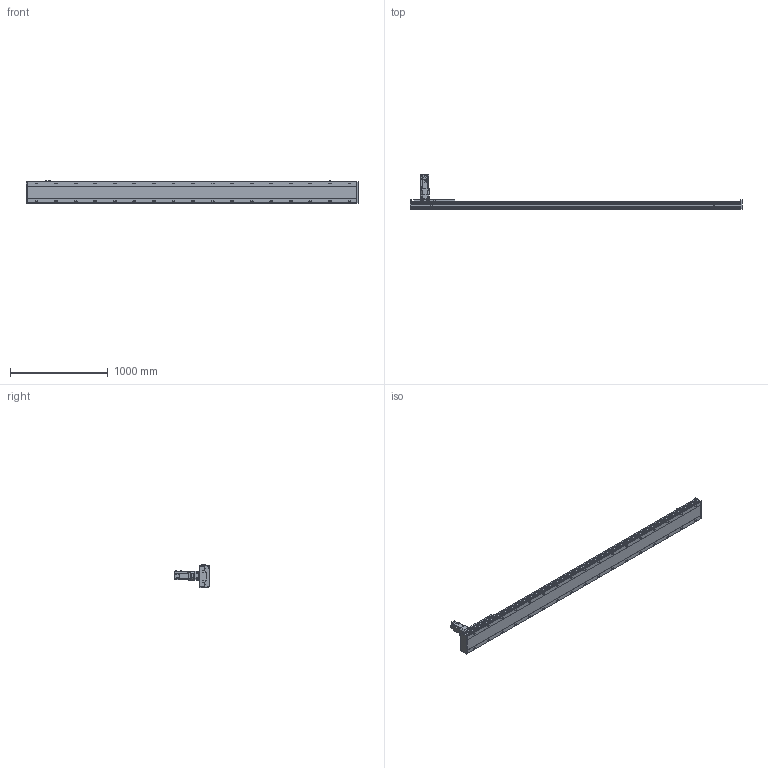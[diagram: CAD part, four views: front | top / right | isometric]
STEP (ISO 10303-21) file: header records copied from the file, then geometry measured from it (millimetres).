
FILE_DESCRIPTION(/* description */ ('STEP AP214'),/* implementation_level */ '2;1');
FILE_NAME(/* name */ 'SHS22A-L13-S2900-BC-T75-C1-N(0)',/* time_stamp */ '2022-06-15T02:27:49+02:00',/* author */ ('License CC BY-ND 4.0'),/* organization */ ('CADENAS'),/* preprocessor_version */ 'ST-DEVELOPER v18.102',/* originating_system */ 'PARTsolutions',/* authorisation */ ' ');
FILE_SCHEMA (('AUTOMOTIVE_DESIGN {1 0 10303 214 3 1 1}'));
Length unit declared in the file: millimetre
Products named in the file (7): SHS22A-L13-S2900-BC-T75-C1-N(0); PSC140-sensor; SHS22A-S2900_body2; T75-p1; SHS22A-S2900_body3; SHS22A-S2900_slider; SHS22A-L13-S2900-BC-T75-C1(0)_body
Assembly tree (13 placements, depth 2):
  SHS22A-L13-S2900-BC-T75-C1-N(0)
    PSC140-sensor  x3
    SHS22A-S2900_body2  x6
    T75-p1
    SHS22A-S2900_body3
    SHS22A-S2900_slider
    SHS22A-L13-S2900-BC-T75-C1(0)_body
Bounding box: 3394 x 350.8 x 238.4 mm (x, y, z)
Volume: 37152716.9 mm3; surface area: 3833310.2 mm2
Topology: 13 solids, 13 shells, 1905 faces, 4891 edges, 3202 vertices
Faces by surface type: plane 1348, cylinder 449, cone 99, torus 9
Full cylindrical faces by diameter (mm): 2.8 x3, 4.2 x2, 4.6 x3, 4.917 x4, 5 x4, 5.6 x24, 6 x31, 6.6 x24, 6.647 x8, 6.8 x9, 7.75 x6, 8 x3, 8.376 x34, 8.5 x34, 10 x4, 11 x4, 12 x24, 14 x34, 22 x1, 24.1 x1, 28 x1, 28.2 x1, 28.8 x1, 48.542 x1, 68 x1, 70 x1, 78 x1, 80 x2
Entity records: 31906 total; most frequent: CARTESIAN_POINT 5735, DIRECTION 5405, ORIENTED_EDGE 4872, EDGE_CURVE 2436, AXIS2_PLACEMENT_3D 1914, VERTEX_POINT 1758, FACE_BOUND 1682, EDGE_LOOP 1681
